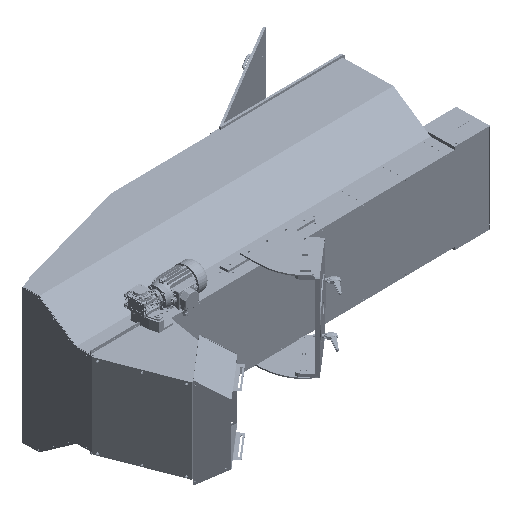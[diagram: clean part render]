
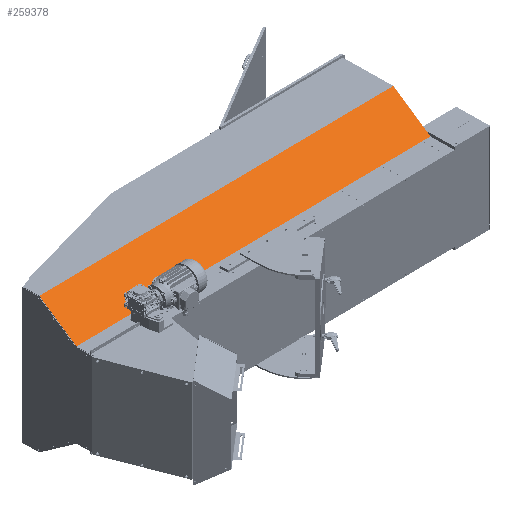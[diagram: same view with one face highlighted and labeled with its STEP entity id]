
A CAD part, isometric view. The second image highlights one B-rep face of the part: STEP entity #259378.
In plain terms, the highlighted planar face has unit normal (0.008, -0.574, 0.819).
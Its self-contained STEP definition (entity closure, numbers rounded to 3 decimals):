
#1028 = EDGE_CURVE ( 'NONE', #69732, #160603, #194687, .T. ) ;
#15276 = VECTOR ( 'NONE', #183720, 1000. ) ;
#21511 = CARTESIAN_POINT ( 'NONE',  ( 1558.999, 232.042, 1059.1 ) ) ;
#23415 = FACE_OUTER_BOUND ( 'NONE', #282497, .T. ) ;
#27858 = LINE ( 'NONE', #114957, #218066 ) ;
#63830 = DIRECTION ( 'NONE',  ( 0.011, -0.819, -0.574 ) ) ;
#69732 = VERTEX_POINT ( 'NONE', #215816 ) ;
#86814 = EDGE_CURVE ( 'NONE', #248286, #201333, #152341, .T. ) ;
#90930 = ORIENTED_EDGE ( 'NONE', *, *, #1028, .T. ) ;
#91141 = ORIENTED_EDGE ( 'NONE', *, *, #86814, .T. ) ;
#105758 = CARTESIAN_POINT ( 'NONE',  ( -158.451, 32.983, 936.1 ) ) ;
#114957 = CARTESIAN_POINT ( 'NONE',  ( 1558.999, 232.042, 1059.1 ) ) ;
#133963 = EDGE_CURVE ( 'NONE', #160603, #248286, #27858, .T. ) ;
#152009 = PLANE ( 'NONE',  #200894 ) ;
#152341 = LINE ( 'NONE', #239442, #280516 ) ;
#153393 = CARTESIAN_POINT ( 'NONE',  ( 1564.512, -579.386, 490.932 ) ) ;
#159486 = LINE ( 'NONE', #223763, #15276 ) ;
#160603 = VERTEX_POINT ( 'NONE', #21511 ) ;
#170985 = CARTESIAN_POINT ( 'NONE',  ( -160.842, 208.629, 1059.1 ) ) ;
#180637 = DIRECTION ( 'NONE',  ( -1., -0.014, 0. ) ) ;
#182277 = ORIENTED_EDGE ( 'NONE', *, *, #210261, .T. ) ;
#183720 = DIRECTION ( 'NONE',  ( 1., 0.014, 0. ) ) ;
#189510 = ORIENTED_EDGE ( 'NONE', *, *, #133963, .T. ) ;
#194687 = LINE ( 'NONE', #278946, #214054 ) ;
#200894 = AXIS2_PLACEMENT_3D ( 'NONE', #153393, #243254, #261897 ) ;
#201333 = VERTEX_POINT ( 'NONE', #105758 ) ;
#210261 = EDGE_CURVE ( 'NONE', #201333, #69732, #159486, .T. ) ;
#213298 = DIRECTION ( 'NONE',  ( -0.011, 0.819, 0.574 ) ) ;
#214054 = VECTOR ( 'NONE', #213298, 1000. ) ;
#215816 = CARTESIAN_POINT ( 'NONE',  ( 1561.39, 56.396, 936.1 ) ) ;
#218066 = VECTOR ( 'NONE', #180637, 1000. ) ;
#223763 = CARTESIAN_POINT ( 'NONE',  ( -158.451, 32.983, 936.1 ) ) ;
#239442 = CARTESIAN_POINT ( 'NONE',  ( -160.842, 208.629, 1059.1 ) ) ;
#243254 = DIRECTION ( 'NONE',  ( 0.008, -0.574, 0.819 ) ) ;
#248286 = VERTEX_POINT ( 'NONE', #170985 ) ;
#259378 = ADVANCED_FACE ( 'NONE', ( #23415 ), #152009, .T. ) ;
#261897 = DIRECTION ( 'NONE',  ( 0.005, 0.819, 0.573 ) ) ;
#278946 = CARTESIAN_POINT ( 'NONE',  ( 1561.39, 56.396, 936.1 ) ) ;
#280516 = VECTOR ( 'NONE', #63830, 1000. ) ;
#282497 = EDGE_LOOP ( 'NONE', ( #91141, #182277, #90930, #189510 ) ) ;
